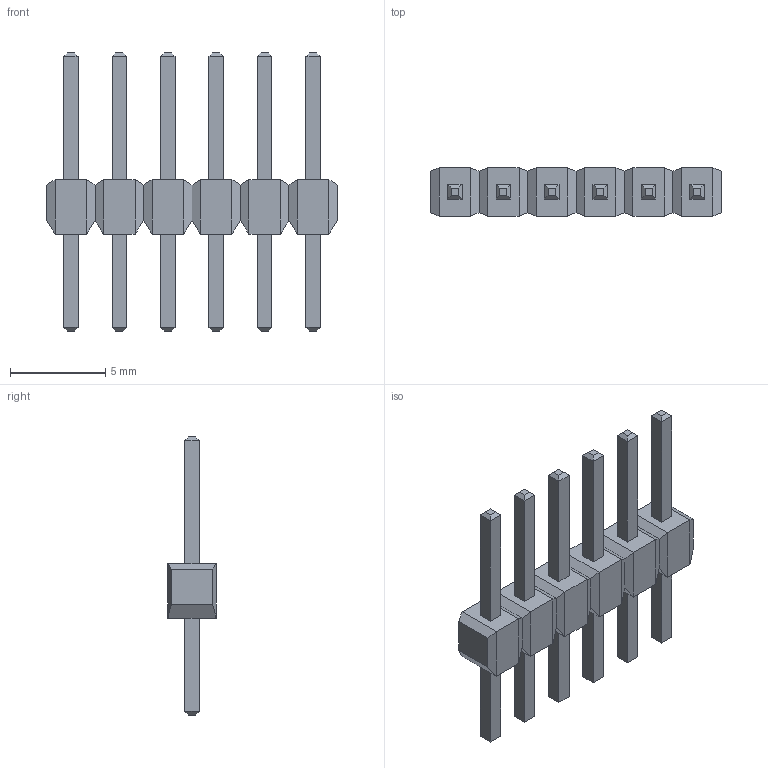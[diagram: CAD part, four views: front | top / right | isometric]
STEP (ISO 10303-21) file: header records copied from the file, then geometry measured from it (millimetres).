
FILE_DESCRIPTION(('STEP AP214'),'1');
FILE_NAME('CON6_1X6_P100UM_HDR_TYC','2021-11-21T13:01:14',(''),(''),'','','');
FILE_SCHEMA(('AUTOMOTIVE_DESIGN'));
Length unit declared in the file: millimetre
Products named in the file (1): product
Bounding box: 15.24 x 2.54 x 14.58 mm (x, y, z)
Volume: 142 mm3; surface area: 404.5 mm2
Topology: 13 solids, 13 shells, 194 faces, 388 edges, 220 vertices
Faces by surface type: plane 194
Entity records: 4597 total; most frequent: DIRECTION 778, ORIENTED_EDGE 776, CARTESIAN_POINT 415, EDGE_CURVE 388, LINE 388, VECTOR 388, VERTEX_POINT 220, AXIS2_PLACEMENT_3D 195
